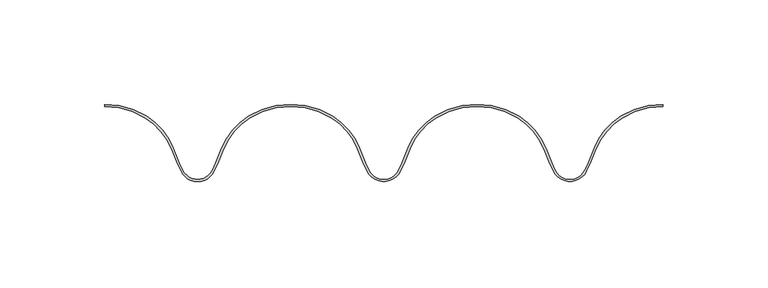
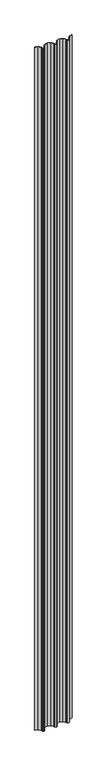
"""IFC4 building model written with IfcOpenShell, lengths in millimetres: plate geometry, Regolare Couverture 267  : Regolare Couverture 267 ."""

from ifc_helpers import new_model, si_unit, point, frame_2d, origin, origin_with_axes, place, context, project, spatial, polyline, circle_curve, trimmed, segment, composite_curve, outline, extrude, source, transform, mapped, element, save


def plate_a7339eb3(model_context):
    return source(origin(), model_context, "Body", "SweptSolid", [
        extrude(outline(composite_curve([segment(trimmed(circle_curve(frame_2d((-133.5772336, -1.5098563)), 37.4503244), [point((-114.0364835, 30.4383187))], [point((-133.5772336, 35.9404682))], True, "CARTESIAN"), True, "CONTINUOUS"), segment(polyline([(-133.5772336, 35.9404682), (-133.5772336, 36.9404682)]), True, "CONTINUOUS"), segment(trimmed(circle_curve(frame_2d((-133.5772336, -1.5098563)), 38.4503244), [point((-133.5772336, 36.9404682))], [point((-113.5147056, 31.2914001))], False, "CARTESIAN"), True, "CONTINUOUS"), segment(trimmed(circle_curve(frame_2d((-130.0115884, 4.3198001)), 31.6166783), [point((-113.5147056, 31.2914001))], [point((-100.6561042, 16.0616012))], False, "CARTESIAN"), True, "CONTINUOUS"), segment(polyline([(-100.6561042, 16.0616012), (-97.7868824, 8.8980757), (-96.1405287, 5.4633665)]), True, "CONTINUOUS"), segment(trimmed(circle_curve(frame_2d((-89.0514891, 8.8613445)), 7.8613445), [point((-96.1405287, 5.4633665))], [point((-89.0514891, 1.0))], True, "CARTESIAN"), True, "CONTINUOUS"), segment(trimmed(circle_curve(frame_2d((-89.0514891, 8.8613445)), 7.8613445), [point((-89.0514891, 1.0))], [point((-81.9624494, 5.4633665))], True, "CARTESIAN"), True, "CONTINUOUS"), segment(polyline([(-81.9624494, 5.4633665), (-80.3160957, 8.8980757), (-77.446874, 16.0616012)]), True, "CONTINUOUS"), segment(trimmed(circle_curve(frame_2d((-48.0913898, 4.3198001)), 31.6166783), [point((-77.446874, 16.0616012))], [point((-64.5882725, 31.2914001))], False, "CARTESIAN"), True, "CONTINUOUS"), segment(trimmed(circle_curve(frame_2d((-44.5257445, -1.5098563)), 38.4503244), [point((-64.5882725, 31.2914001))], [point((-44.5257445, 36.9404682))], False, "CARTESIAN"), True, "CONTINUOUS"), segment(trimmed(circle_curve(frame_2d((-44.5257445, -1.5098563)), 38.4503244), [point((-44.5257445, 36.9404682))], [point((-24.4632165, 31.2914001))], False, "CARTESIAN"), True, "CONTINUOUS"), segment(trimmed(circle_curve(frame_2d((-40.9600993, 4.3198001)), 31.6166783), [point((-24.4632165, 31.2914001))], [point((-11.6046151, 16.0616012))], False, "CARTESIAN"), True, "CONTINUOUS"), segment(polyline([(-11.6046151, 16.0616012), (-8.7353934, 8.8980757), (-7.0890396, 5.4633665)]), True, "CONTINUOUS"), segment(trimmed(circle_curve(frame_2d((0.0, 8.8613445)), 7.8613445), [point((-7.0890396, 5.4633665))], [point((7.0890396, 5.4633665))], True, "CARTESIAN"), True, "CONTINUOUS"), segment(polyline([(7.0890396, 5.4633665), (8.7353934, 8.8980757), (11.6046151, 16.0616012)]), True, "CONTINUOUS"), segment(trimmed(circle_curve(frame_2d((40.9600993, 4.3198001)), 31.6166783), [point((11.6046151, 16.0616012))], [point((24.4632165, 31.2914001))], False, "CARTESIAN"), True, "CONTINUOUS"), segment(trimmed(circle_curve(frame_2d((44.5257445, -1.5098563)), 38.4503244), [point((24.4632165, 31.2914001))], [point((44.5257445, 36.9404682))], False, "CARTESIAN"), True, "CONTINUOUS"), segment(trimmed(circle_curve(frame_2d((44.5257445, -1.5098563)), 38.4503244), [point((44.5257445, 36.9404682))], [point((64.5882725, 31.2914001))], False, "CARTESIAN"), True, "CONTINUOUS"), segment(trimmed(circle_curve(frame_2d((48.0913898, 4.3198001)), 31.6166783), [point((64.5882725, 31.2914001))], [point((77.446874, 16.0616012))], False, "CARTESIAN"), True, "CONTINUOUS"), segment(polyline([(77.446874, 16.0616012), (80.3160957, 8.8980757), (81.9624494, 5.4633665)]), True, "CONTINUOUS"), segment(trimmed(circle_curve(frame_2d((89.0514891, 8.8613445)), 7.8613445), [point((81.9624494, 5.4633665))], [point((96.1405287, 5.4633665))], True, "CARTESIAN"), True, "CONTINUOUS"), segment(polyline([(96.1405287, 5.4633665), (97.7868824, 8.8980757), (100.6561042, 16.0616012)]), True, "CONTINUOUS"), segment(trimmed(circle_curve(frame_2d((130.0115884, 4.3198001)), 31.6166783), [point((100.6561042, 16.0616012))], [point((113.5147056, 31.2914001))], False, "CARTESIAN"), True, "CONTINUOUS"), segment(trimmed(circle_curve(frame_2d((133.5772336, -1.5098563)), 38.4503244), [point((113.5147056, 31.2914001))], [point((133.5772336, 36.9404682))], False, "CARTESIAN"), True, "CONTINUOUS"), segment(polyline([(133.5772336, 36.9404682), (133.5772336, 35.9404682)]), True, "CONTINUOUS"), segment(trimmed(circle_curve(frame_2d((133.5772336, -1.5098563)), 37.4503244), [point((133.5772336, 35.9404682))], [point((114.0364835, 30.4383187))], True, "CARTESIAN"), True, "CONTINUOUS"), segment(trimmed(circle_curve(frame_2d((130.0115884, 4.3198001)), 30.6166783), [point((114.0364835, 30.4383187))], [point((101.5844985, 15.6900047))], True, "CARTESIAN"), True, "CONTINUOUS"), segment(polyline([(101.5844985, 15.6900047), (98.7029126, 8.4956098), (97.0422879, 5.0311277)]), True, "CONTINUOUS"), segment(trimmed(circle_curve(frame_2d((89.0514891, 8.8613445)), 8.8613445), [point((97.0422879, 5.0311277))], [point((81.0606903, 5.0311277))], False, "CARTESIAN"), True, "CONTINUOUS"), segment(polyline([(81.0606903, 5.0311277), (79.4000655, 8.4956098), (76.5184796, 15.6900047)]), True, "CONTINUOUS"), segment(trimmed(circle_curve(frame_2d((48.0913898, 4.3198001)), 30.6166783), [point((76.5184796, 15.6900047))], [point((64.0664947, 30.4383187))], True, "CARTESIAN"), True, "CONTINUOUS"), segment(trimmed(circle_curve(frame_2d((44.5257445, -1.5098563)), 37.4503244), [point((64.0664947, 30.4383187))], [point((44.5257445, 35.9404682))], True, "CARTESIAN"), True, "CONTINUOUS"), segment(trimmed(circle_curve(frame_2d((44.5257445, -1.5098563)), 37.4503244), [point((44.5257445, 35.9404682))], [point((24.9849944, 30.4383187))], True, "CARTESIAN"), True, "CONTINUOUS"), segment(trimmed(circle_curve(frame_2d((40.9600993, 4.3198001)), 30.6166783), [point((24.9849944, 30.4383187))], [point((12.5330095, 15.6900047))], True, "CARTESIAN"), True, "CONTINUOUS"), segment(polyline([(12.5330095, 15.6900047), (9.6514235, 8.4956098), (7.9907988, 5.0311277)]), True, "CONTINUOUS"), segment(trimmed(circle_curve(frame_2d((0.0, 8.8613445)), 8.8613445), [point((7.9907988, 5.0311277))], [point((-7.9907988, 5.0311277))], False, "CARTESIAN"), True, "CONTINUOUS"), segment(polyline([(-7.9907988, 5.0311277), (-9.6514235, 8.4956098), (-12.5330095, 15.6900047)]), True, "CONTINUOUS"), segment(trimmed(circle_curve(frame_2d((-40.9600993, 4.3198001)), 30.6166783), [point((-12.5330095, 15.6900047))], [point((-24.9849944, 30.4383187))], True, "CARTESIAN"), True, "CONTINUOUS"), segment(trimmed(circle_curve(frame_2d((-44.5257445, -1.5098563)), 37.4503244), [point((-24.9849944, 30.4383187))], [point((-44.5257445, 35.9404682))], True, "CARTESIAN"), True, "CONTINUOUS"), segment(trimmed(circle_curve(frame_2d((-44.5257445, -1.5098563)), 37.4503244), [point((-44.5257445, 35.9404682))], [point((-64.0664947, 30.4383187))], True, "CARTESIAN"), True, "CONTINUOUS"), segment(trimmed(circle_curve(frame_2d((-48.0913898, 4.3198001)), 30.6166783), [point((-64.0664947, 30.4383187))], [point((-76.5184796, 15.6900047))], True, "CARTESIAN"), True, "CONTINUOUS"), segment(polyline([(-76.5184796, 15.6900047), (-79.4000655, 8.4956098), (-81.0606903, 5.0311277)]), True, "CONTINUOUS"), segment(trimmed(circle_curve(frame_2d((-89.0514891, 8.8613445)), 8.8613445), [point((-81.0606903, 5.0311277))], [point((-89.0514891, 0.0))], False, "CARTESIAN"), True, "CONTINUOUS"), segment(trimmed(circle_curve(frame_2d((-89.0514891, 8.8613445)), 8.8613445), [point((-89.0514891, 0.0))], [point((-97.0422879, 5.0311277))], False, "CARTESIAN"), True, "CONTINUOUS"), segment(polyline([(-97.0422879, 5.0311277), (-98.7029126, 8.4956098), (-101.5844985, 15.6900047)]), True, "CONTINUOUS"), segment(trimmed(circle_curve(frame_2d((-130.0115884, 4.3198001)), 30.6166783), [point((-101.5844985, 15.6900047))], [point((-114.0364835, 30.4383187))], True, "CARTESIAN"), True, "CONTINUOUS")], self_intersect=False)), origin_with_axes(), (0.0, 0.0, 1.0), 5176.3809021),
    ])


if __name__ == "__main__":
    model = new_model("IFC4")
    model_context = context("Model", 3, world=origin())
    ifc_project = project(units=[si_unit("LENGTHUNIT", "METRE", prefix="MILLI")], contexts=[model_context])
    site = spatial("IfcSite", under=ifc_project)
    building = spatial("IfcBuilding", under=site)
    placement = place(None, origin())
    plate_shape = plate_a7339eb3(model_context)
    element("IfcPlate", 1, ObjectType="Regolare Couverture 267  : Regolare Couverture 267 ", at=placement, inside=building, context=model_context, shape_type="MappedRepresentation", body=[
        mapped(plate_shape, transform((0.0, 0.0, 0.0), x_axis=(1.0, 0.0, 0.0), y_axis=(0.0, 1.0, 0.0), z_axis=(0.0, 0.0, 1.0))),
    ])
    save(model, "model.ifc")
